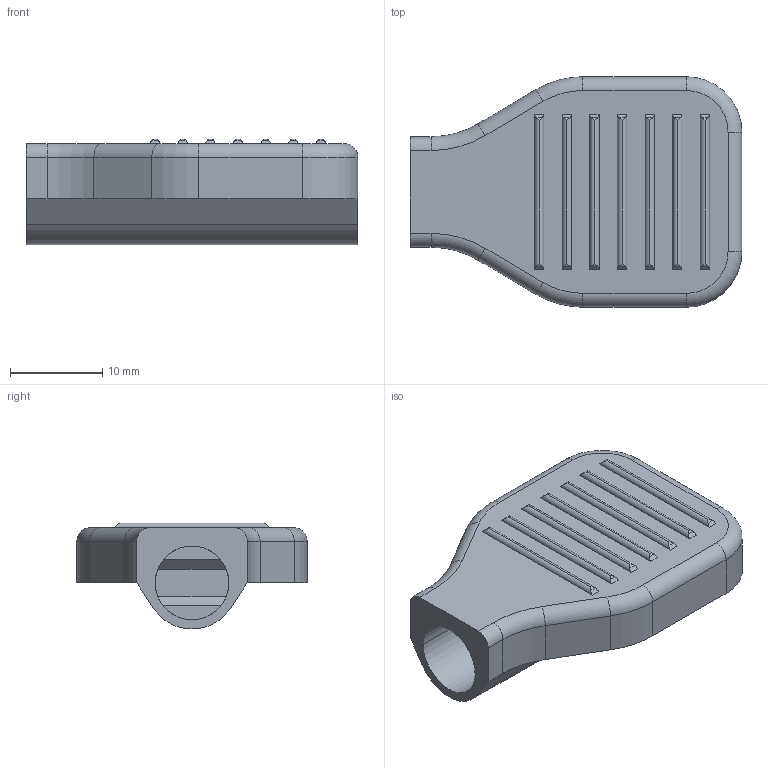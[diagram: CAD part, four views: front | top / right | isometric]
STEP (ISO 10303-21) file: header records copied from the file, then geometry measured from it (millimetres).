
FILE_DESCRIPTION(('CATIA V5 STEP Exchange'),'2;1');
FILE_NAME('D:\交接\张长江\21-Benz H6\光华荣昌转盘数据\H6 转盘\转盘用整椅数据 A9609109920\sample\H6 转盘夏季测试样件方案_20240617\样件数据\塑料件\SHT0017294-102 脚踏.stp','2024-06-19T03:56:06+00:00',('none'),('none'),'CATIA Version 5 Release 20 GA (IN-10)','CATIA V5 STEP AP203 Edition 2','none');
FILE_SCHEMA(('AP203_CONFIGURATION_CONTROLLED_3D_DESIGN_OF_MECHANICAL_PARTS_AND_ASSEMBLIES_MIM_LF { 1 0 10303 403 2 1 2}'));
Length unit declared in the file: millimetre
Products named in the file (1): SHT0017294-10
Bounding box: 36 x 25 x 11.5 mm (x, y, z)
Volume: 4631 mm3; surface area: 3145.1 mm2
Topology: 1 solids, 1 shells, 84 faces, 210 edges, 136 vertices
Faces by surface type: cylinder 44, plane 34, torus 6
Entity records: 2509 total; most frequent: CARTESIAN_POINT 608, ORIENTED_EDGE 420, DIRECTION 312, EDGE_CURVE 210, VERTEX_POINT 136, AXIS2_PLACEMENT_3D 124, VECTOR 108, LINE 108
